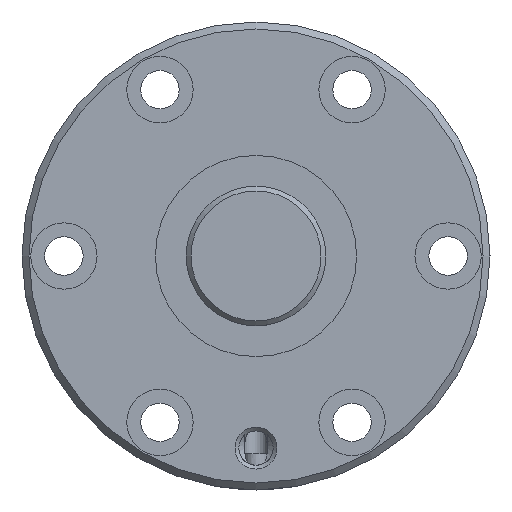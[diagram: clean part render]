
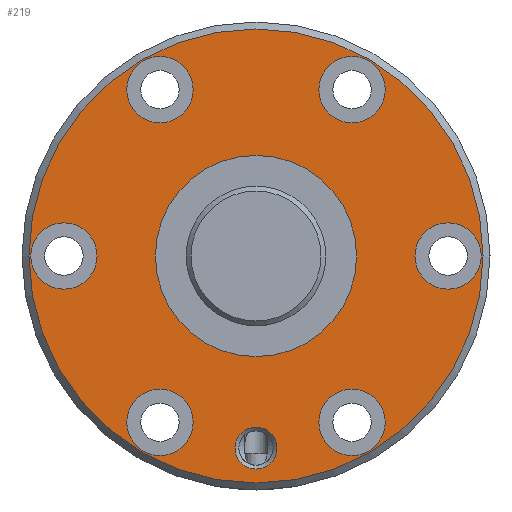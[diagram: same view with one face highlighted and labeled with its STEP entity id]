
A CAD part, left-side view. The second image highlights one B-rep face of the part: STEP entity #219.
In plain terms, the highlighted planar face has unit normal (-1, 0, 0).
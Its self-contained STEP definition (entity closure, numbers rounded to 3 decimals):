
#219 = ADVANCED_FACE( '', ( #390, #391, #392, #393, #394, #395, #396, #397, #398 ), #399, .T. );
#390 = FACE_BOUND( '', #629, .T. );
#391 = FACE_BOUND( '', #630, .T. );
#392 = FACE_BOUND( '', #631, .T. );
#393 = FACE_BOUND( '', #632, .T. );
#394 = FACE_BOUND( '', #633, .T. );
#395 = FACE_BOUND( '', #634, .T. );
#396 = FACE_BOUND( '', #635, .T. );
#397 = FACE_BOUND( '', #636, .T. );
#398 = FACE_OUTER_BOUND( '', #637, .T. );
#399 = PLANE( '', #638 );
#629 = EDGE_LOOP( '', ( #1059 ) );
#630 = EDGE_LOOP( '', ( #1060 ) );
#631 = EDGE_LOOP( '', ( #1061 ) );
#632 = EDGE_LOOP( '', ( #1062 ) );
#633 = EDGE_LOOP( '', ( #1063 ) );
#634 = EDGE_LOOP( '', ( #1064 ) );
#635 = EDGE_LOOP( '', ( #1065 ) );
#636 = EDGE_LOOP( '', ( #1066 ) );
#637 = EDGE_LOOP( '', ( #1067 ) );
#638 = AXIS2_PLACEMENT_3D( '', #1068, #1069, #1070 );
#1059 = ORIENTED_EDGE( '', *, *, #1342, .T. );
#1060 = ORIENTED_EDGE( '', *, *, #1343, .T. );
#1061 = ORIENTED_EDGE( '', *, *, #1265, .T. );
#1062 = ORIENTED_EDGE( '', *, *, #1341, .T. );
#1063 = ORIENTED_EDGE( '', *, *, #1344, .T. );
#1064 = ORIENTED_EDGE( '', *, *, #1345, .T. );
#1065 = ORIENTED_EDGE( '', *, *, #1346, .T. );
#1066 = ORIENTED_EDGE( '', *, *, #1347, .T. );
#1067 = ORIENTED_EDGE( '', *, *, #1348, .F. );
#1068 = CARTESIAN_POINT( '', ( 0., 32.5, 0. ) );
#1069 = DIRECTION( '', ( -1., 0., 0. ) );
#1070 = DIRECTION( '', ( 0., 0., 1. ) );
#1265 = EDGE_CURVE( '', #1419, #1419, #1420, .T. );
#1341 = EDGE_CURVE( '', #1549, #1549, #1550, .T. );
#1342 = EDGE_CURVE( '', #1551, #1551, #1552, .T. );
#1343 = EDGE_CURVE( '', #1553, #1553, #1554, .F. );
#1344 = EDGE_CURVE( '', #1555, #1555, #1556, .T. );
#1345 = EDGE_CURVE( '', #1557, #1557, #1558, .T. );
#1346 = EDGE_CURVE( '', #1559, #1559, #1560, .T. );
#1347 = EDGE_CURVE( '', #1561, #1561, #1562, .T. );
#1348 = EDGE_CURVE( '', #1563, #1563, #1564, .T. );
#1419 = VERTEX_POINT( '', #1760 );
#1420 = CIRCLE( '', #1761, 3. );
#1549 = VERTEX_POINT( '', #2054 );
#1550 = CIRCLE( '', #2055, 4.75 );
#1551 = VERTEX_POINT( '', #2056 );
#1552 = CIRCLE( '', #2057, 14.4 );
#1553 = VERTEX_POINT( '', #2058 );
#1554 = CIRCLE( '', #2059, 4.75 );
#1555 = VERTEX_POINT( '', #2060 );
#1556 = CIRCLE( '', #2061, 4.75 );
#1557 = VERTEX_POINT( '', #2062 );
#1558 = CIRCLE( '', #2063, 4.75 );
#1559 = VERTEX_POINT( '', #2064 );
#1560 = CIRCLE( '', #2065, 4.75 );
#1561 = VERTEX_POINT( '', #2066 );
#1562 = CIRCLE( '', #2067, 4.75 );
#1563 = VERTEX_POINT( '', #2068 );
#1564 = CIRCLE( '', #2069, 32.5 );
#1760 = CARTESIAN_POINT( '', ( 0., 0., -30.5 ) );
#1761 = AXIS2_PLACEMENT_3D( '', #2219, #2220, #2221 );
#2054 = CARTESIAN_POINT( '', ( 0., 13.75, 19.066 ) );
#2055 = AXIS2_PLACEMENT_3D( '', #2371, #2372, #2373 );
#2056 = CARTESIAN_POINT( '', ( 0., 0., -14.4 ) );
#2057 = AXIS2_PLACEMENT_3D( '', #2374, #2375, #2376 );
#2058 = CARTESIAN_POINT( '', ( 0., 27.5, 4.75 ) );
#2059 = AXIS2_PLACEMENT_3D( '', #2377, #2378, #2379 );
#2060 = CARTESIAN_POINT( '', ( 0., -13.75, -28.566 ) );
#2061 = AXIS2_PLACEMENT_3D( '', #2380, #2381, #2382 );
#2062 = CARTESIAN_POINT( '', ( 0., -13.75, 19.066 ) );
#2063 = AXIS2_PLACEMENT_3D( '', #2383, #2384, #2385 );
#2064 = CARTESIAN_POINT( '', ( 0., 13.75, -28.566 ) );
#2065 = AXIS2_PLACEMENT_3D( '', #2386, #2387, #2388 );
#2066 = CARTESIAN_POINT( '', ( 0., -27.5, -4.75 ) );
#2067 = AXIS2_PLACEMENT_3D( '', #2389, #2390, #2391 );
#2068 = CARTESIAN_POINT( '', ( 0., 0., -32.5 ) );
#2069 = AXIS2_PLACEMENT_3D( '', #2392, #2393, #2394 );
#2219 = CARTESIAN_POINT( '', ( 0., 0., -27.5 ) );
#2220 = DIRECTION( '', ( 1., 0., 0. ) );
#2221 = DIRECTION( '', ( 0., 0., -1. ) );
#2371 = CARTESIAN_POINT( '', ( 0., 13.75, 23.816 ) );
#2372 = DIRECTION( '', ( 1., 0., 0. ) );
#2373 = DIRECTION( '', ( 0., 0., -1. ) );
#2374 = CARTESIAN_POINT( '', ( 0., 0., 0. ) );
#2375 = DIRECTION( '', ( 1., 0., 0. ) );
#2376 = DIRECTION( '', ( 0., 0., -1. ) );
#2377 = CARTESIAN_POINT( '', ( 0., 27.5, 0. ) );
#2378 = DIRECTION( '', ( -1., 0., 0. ) );
#2379 = DIRECTION( '', ( 0., 0., 1. ) );
#2380 = CARTESIAN_POINT( '', ( 0., -13.75, -23.816 ) );
#2381 = DIRECTION( '', ( 1., 0., 0. ) );
#2382 = DIRECTION( '', ( 0., 0., -1. ) );
#2383 = CARTESIAN_POINT( '', ( 0., -13.75, 23.816 ) );
#2384 = DIRECTION( '', ( 1., 0., 0. ) );
#2385 = DIRECTION( '', ( 0., 0., -1. ) );
#2386 = CARTESIAN_POINT( '', ( 0., 13.75, -23.816 ) );
#2387 = DIRECTION( '', ( 1., 0., 0. ) );
#2388 = DIRECTION( '', ( 0., 0., -1. ) );
#2389 = CARTESIAN_POINT( '', ( 0., -27.5, 0. ) );
#2390 = DIRECTION( '', ( 1., 0., 0. ) );
#2391 = DIRECTION( '', ( 0., 0., -1. ) );
#2392 = CARTESIAN_POINT( '', ( 0., 0., 0. ) );
#2393 = DIRECTION( '', ( 1., 0., 0. ) );
#2394 = DIRECTION( '', ( 0., 0., -1. ) );
